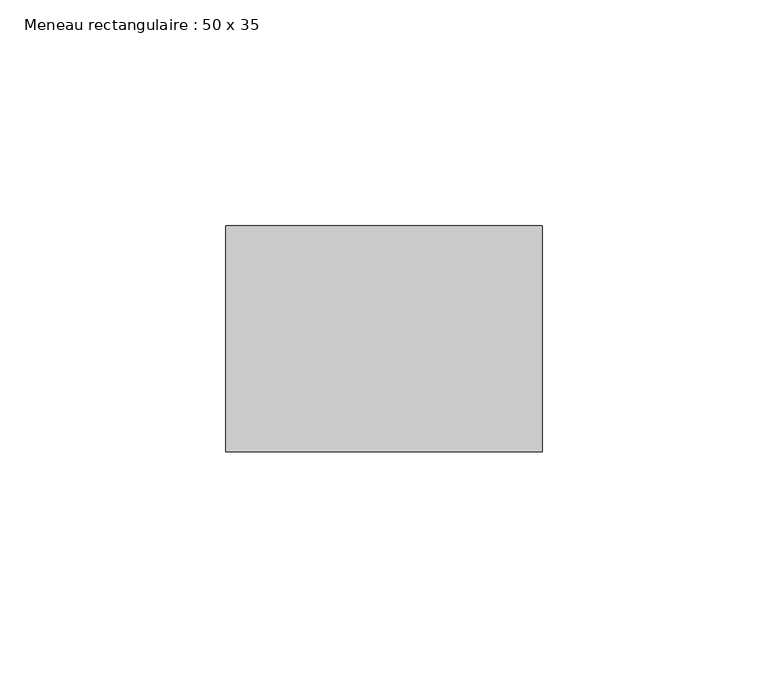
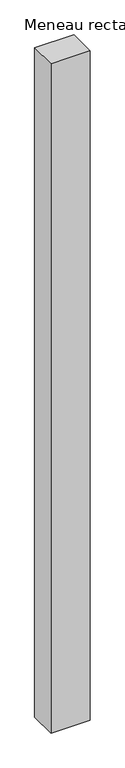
"""IFC4 building model written with IfcOpenShell, lengths in millimetres: member geometry, Meneau rectangulaire : 50 x 35."""

from ifc_helpers import new_model, si_unit, frame, origin, place, context, project, spatial, polyline, outline, extrude, source, transform, mapped, element, save


def meneau_rectangulaire_50_x_35_52852ccd(model_context):
    return source(origin(), model_context, "Body", "SweptSolid", [
        extrude(outline(polyline([(0.0, 0.0), (0.0, -50.0), (-70.0, -50.0), (-70.0, 0.0), (0.0, 0.0)])), frame((0.0, 0.0, -1263.6009201), z_axis=(0.0, 0.0, 1.0), x_axis=(1.0, 0.0, 0.0)), (0.0, 0.0, 1.0), 1263.6009201),
    ])


if __name__ == "__main__":
    model = new_model("IFC4")
    model_context = context("Model", 3, world=origin())
    ifc_project = project(units=[si_unit("LENGTHUNIT", "METRE", prefix="MILLI")], contexts=[model_context])
    site = spatial("IfcSite", under=ifc_project)
    building = spatial("IfcBuilding", under=site)
    placement = place(None, origin())
    meneau_rectangulaire_50_x_35_shape = meneau_rectangulaire_50_x_35_52852ccd(model_context)
    element("IfcMember", 1, ObjectType="Meneau rectangulaire : 50 x 35", at=placement, inside=building, context=model_context, shape_type="MappedRepresentation", body=[
        mapped(meneau_rectangulaire_50_x_35_shape, transform((0.0, 0.0, 0.0), x_axis=(1.0, 0.0, 0.0), y_axis=(0.0, 1.0, 0.0), z_axis=(0.0, 0.0, 1.0))),
    ])
    save(model, "model.ifc")
